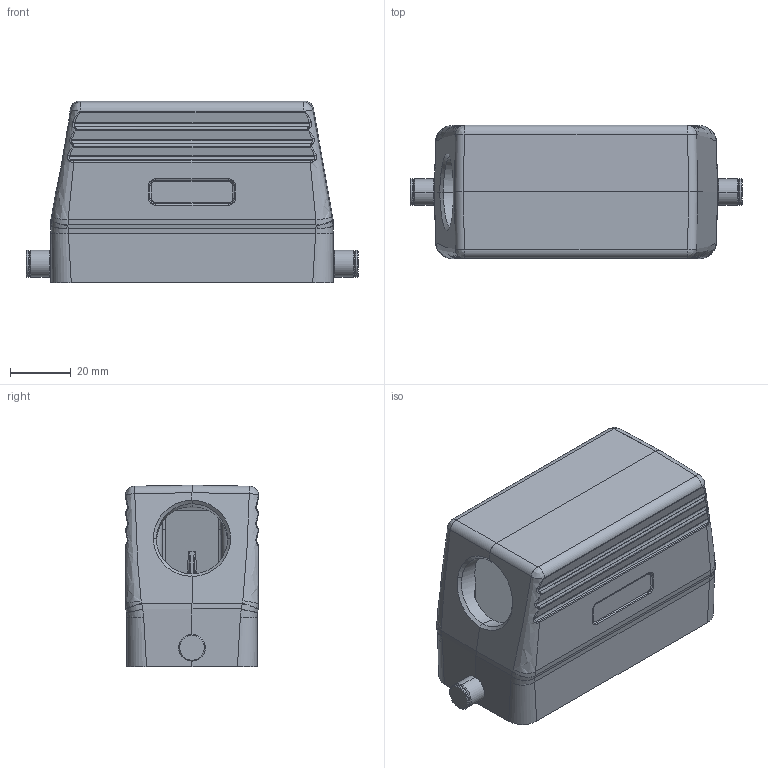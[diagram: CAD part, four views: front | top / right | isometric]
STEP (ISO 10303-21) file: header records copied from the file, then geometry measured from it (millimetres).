
FILE_DESCRIPTION (( 'STEP AP203' ), '1' );
FILE_NAME ('H16B-TS-RO-M25 奻褲.STEP', '2020-08-06T08:27:11', ( '' ), ( '' ), 'SwSTEP 2.0', 'SolidWorks 2016', '' );
FILE_SCHEMA (( 'CONFIG_CONTROL_DESIGN' ));
Length unit declared in the file: millimetre
Products named in the file (1): H16B-TS-RO-M25 奻褲
Bounding box: 109.7 x 44 x 60 mm (x, y, z)
Volume: 73615.8 mm3; surface area: 35045.4 mm2
Topology: 3 solids, 3 shells, 422 faces, 983 edges, 582 vertices
Faces by surface type: bspline 154, cylinder 135, plane 84, cone 49
Entity records: 20983 total; most frequent: CARTESIAN_POINT 12901, ORIENTED_EDGE 1966, DIRECTION 1210, EDGE_CURVE 983, VERTEX_POINT 582, AXIS2_PLACEMENT_3D 460, EDGE_LOOP 439, B_SPLINE_CURVE_WITH_KNOTS 437
